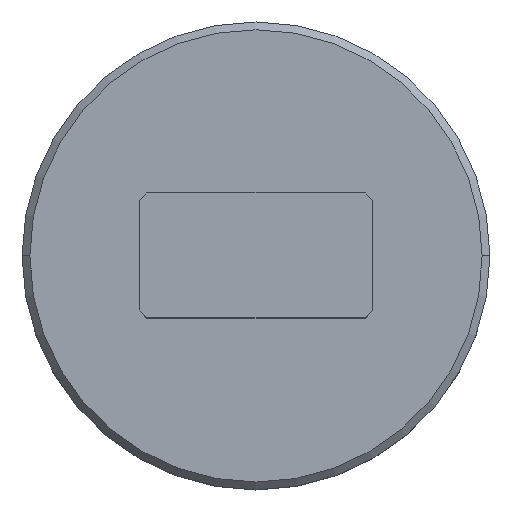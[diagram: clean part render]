
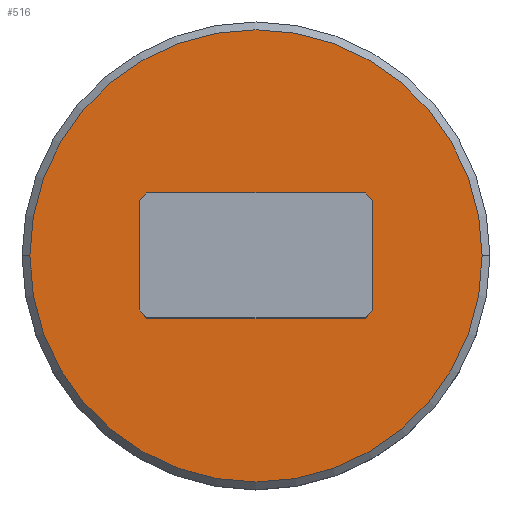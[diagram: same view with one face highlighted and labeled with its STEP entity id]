
A CAD part, top view. The second image highlights one B-rep face of the part: STEP entity #516.
In plain terms, the highlighted planar face has unit normal (0, 0, 1).
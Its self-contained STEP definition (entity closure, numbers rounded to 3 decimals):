
#62=AXIS2_PLACEMENT_3D('Circle Axis2P3D',#60,#61,$) ;
#84=AXIS2_PLACEMENT_3D('Circle Axis2P3D',#82,#83,$) ;
#481=AXIS2_PLACEMENT_3D('Plane Axis2P3D',#478,#479,#480) ;
#41=CARTESIAN_POINT('Vertex',(14.5,0.,7.)) ;
#57=CARTESIAN_POINT('Vertex',(-14.5,0.,7.)) ;
#60=CARTESIAN_POINT('Axis2P3D Location',(0.,0.,7.)) ;
#82=CARTESIAN_POINT('Axis2P3D Location',(0.,0.,7.)) ;
#332=CARTESIAN_POINT('Vertex',(7.,-4.,7.)) ;
#335=CARTESIAN_POINT('Line Origine',(7.25,-3.75,7.)) ;
#339=CARTESIAN_POINT('Vertex',(7.5,-3.5,7.)) ;
#366=CARTESIAN_POINT('Line Origine',(7.5,0.,7.)) ;
#370=CARTESIAN_POINT('Vertex',(7.5,3.5,7.)) ;
#390=CARTESIAN_POINT('Line Origine',(7.25,3.75,7.)) ;
#394=CARTESIAN_POINT('Vertex',(7.,4.,7.)) ;
#425=CARTESIAN_POINT('Vertex',(-7.,-4.,7.)) ;
#430=CARTESIAN_POINT('Line Origine',(0.,-4.,7.)) ;
#456=CARTESIAN_POINT('Vertex',(-7.5,-3.5,7.)) ;
#461=CARTESIAN_POINT('Line Origine',(-7.25,-3.75,7.)) ;
#478=CARTESIAN_POINT('Axis2P3D Location',(0.,0.,7.)) ;
#487=CARTESIAN_POINT('Line Origine',(-7.25,3.75,7.)) ;
#491=CARTESIAN_POINT('Vertex',(-7.,4.,7.)) ;
#493=CARTESIAN_POINT('Vertex',(-7.5,3.5,7.)) ;
#496=CARTESIAN_POINT('Line Origine',(0.,4.,7.)) ;
#501=CARTESIAN_POINT('Line Origine',(-7.5,0.,7.)) ;
#61=DIRECTION('Axis2P3D Direction',(0.,0.,1.)) ;
#83=DIRECTION('Axis2P3D Direction',(0.,0.,1.)) ;
#336=DIRECTION('Vector Direction',(-0.707,-0.707,0.)) ;
#367=DIRECTION('Vector Direction',(0.,1.,0.)) ;
#391=DIRECTION('Vector Direction',(-0.707,0.707,0.)) ;
#431=DIRECTION('Vector Direction',(-1.,0.,0.)) ;
#462=DIRECTION('Vector Direction',(0.707,-0.707,0.)) ;
#479=DIRECTION('Axis2P3D Direction',(0.,0.,1.)) ;
#480=DIRECTION('Axis2P3D XDirection',(1.,0.,0.)) ;
#488=DIRECTION('Vector Direction',(0.707,0.707,0.)) ;
#497=DIRECTION('Vector Direction',(1.,0.,0.)) ;
#502=DIRECTION('Vector Direction',(0.,-1.,0.)) ;
#337=VECTOR('Line Direction',#336,1.) ;
#368=VECTOR('Line Direction',#367,1.) ;
#392=VECTOR('Line Direction',#391,1.) ;
#432=VECTOR('Line Direction',#431,1.) ;
#463=VECTOR('Line Direction',#462,1.) ;
#489=VECTOR('Line Direction',#488,1.) ;
#498=VECTOR('Line Direction',#497,1.) ;
#503=VECTOR('Line Direction',#502,1.) ;
#484=ORIENTED_EDGE('',*,*,#86,.T.) ;
#485=ORIENTED_EDGE('',*,*,#64,.T.) ;
#507=ORIENTED_EDGE('',*,*,#495,.F.) ;
#508=ORIENTED_EDGE('',*,*,#500,.F.) ;
#509=ORIENTED_EDGE('',*,*,#396,.F.) ;
#510=ORIENTED_EDGE('',*,*,#372,.F.) ;
#511=ORIENTED_EDGE('',*,*,#341,.F.) ;
#512=ORIENTED_EDGE('',*,*,#434,.F.) ;
#513=ORIENTED_EDGE('',*,*,#465,.F.) ;
#514=ORIENTED_EDGE('',*,*,#505,.F.) ;
#515=FACE_BOUND('',#506,.T.) ;
#516=ADVANCED_FACE('\X2\96F64EF651E04F554F53\X0\',(#486,#515),#482,.T.) ;
#63=CIRCLE('generated circle',#62,14.5) ;
#85=CIRCLE('generated circle',#84,14.5) ;
#64=EDGE_CURVE('',#42,#58,#63,.T.) ;
#86=EDGE_CURVE('',#58,#42,#85,.T.) ;
#341=EDGE_CURVE('',#333,#340,#338,.F.) ;
#372=EDGE_CURVE('',#340,#371,#369,.T.) ;
#396=EDGE_CURVE('',#371,#395,#393,.T.) ;
#434=EDGE_CURVE('',#426,#333,#433,.F.) ;
#465=EDGE_CURVE('',#457,#426,#464,.T.) ;
#495=EDGE_CURVE('',#492,#494,#490,.F.) ;
#500=EDGE_CURVE('',#395,#492,#499,.F.) ;
#505=EDGE_CURVE('',#494,#457,#504,.T.) ;
#483=EDGE_LOOP('',(#484,#485)) ;
#506=EDGE_LOOP('',(#507,#508,#509,#510,#511,#512,#513,#514)) ;
#486=FACE_OUTER_BOUND('',#483,.T.) ;
#338=LINE('Line',#335,#337) ;
#369=LINE('Line',#366,#368) ;
#393=LINE('Line',#390,#392) ;
#433=LINE('Line',#430,#432) ;
#464=LINE('Line',#461,#463) ;
#490=LINE('Line',#487,#489) ;
#499=LINE('Line',#496,#498) ;
#504=LINE('Line',#501,#503) ;
#482=PLANE('',#481) ;
#42=VERTEX_POINT('',#41) ;
#58=VERTEX_POINT('',#57) ;
#333=VERTEX_POINT('',#332) ;
#340=VERTEX_POINT('',#339) ;
#371=VERTEX_POINT('',#370) ;
#395=VERTEX_POINT('',#394) ;
#426=VERTEX_POINT('',#425) ;
#457=VERTEX_POINT('',#456) ;
#492=VERTEX_POINT('',#491) ;
#494=VERTEX_POINT('',#493) ;
